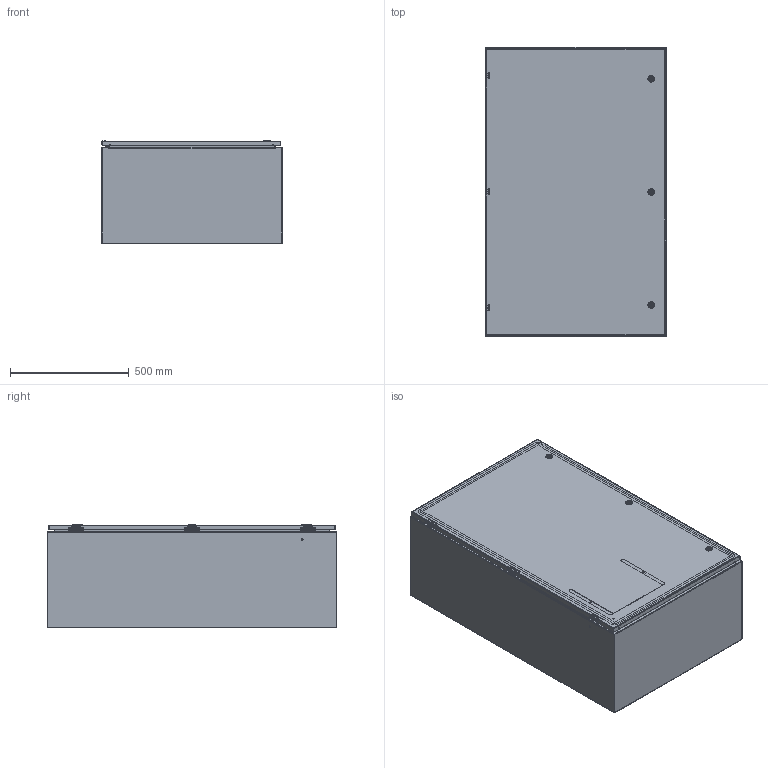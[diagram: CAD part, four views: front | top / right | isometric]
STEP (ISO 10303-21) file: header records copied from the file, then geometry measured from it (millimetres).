
FILE_DESCRIPTION((''),'2;1');
FILE_NAME('MODEL-305_ASM','2022-12-13T08:14:46',('johnh'),('SAGINAW CONTROL & ENGINEERING'),'CREO PARAMETRIC BY PTC INC, 2021284','CREO PARAMETRIC BY PTC INC, 2021284','');
FILE_SCHEMA(('AUTOMOTIVE_DESIGN { 1 0 10303 214 1 1 1 1 }'));
Length unit declared in the file: inch
Products named in the file (28): MODEL-305-BDY; MODEL-305-TP; MODEL-305-BTM; MODEL-305-DR; 100837; 100882; 111267; 100794_SHAFT; 100794_INSERT; 100794_CAM; 100794_NUT; 100794_SCREW; 100794_ASM; MODEL-305-DOOR-GASKET; 126391; 126391_ASM; 126393; 102483; 101226; 101376; 102140; MODEL-305-DOOR-ASSY_ASM; 101653; 122192; SUBPANEL; 100904; SUBPANEL-SUBASSEMBLY_ASM; MODEL-305_ASM
Assembly tree (61 placements, depth 4):
  MODEL-305_ASM
    MODEL-305-BDY
    MODEL-305-TP
    MODEL-305-BTM
    MODEL-305-DOOR-ASSY_ASM
      MODEL-305-DR
      100837  x3
      100882  x2
      111267
      100794_ASM  x3
        100794_SHAFT
        100794_INSERT
        100794_CAM
        100794_NUT
        100794_SCREW
      MODEL-305-DOOR-GASKET
      126391_ASM  x3
        126391
      126393  x3
      102483  x9
      101226  x3
      101376  x3
      102140  x3
    100837
    101653  x6
    122192
    SUBPANEL-SUBASSEMBLY_ASM
      SUBPANEL
      100904  x6
Bounding box: 762 x 1219.2 x 437.53 mm (x, y, z)
Volume: 10490478.4 mm3; surface area: 9541303.9 mm2
Topology: 67 solids, 67 shells, 4077 faces, 10342 edges, 6501 vertices
Faces by surface type: plane 1848, cylinder 1172, bspline 532, torus 295, cone 150, sphere 80
Entity records: 88100 total; most frequent: CARTESIAN_POINT 25468, ORIENTED_EDGE 9090, DIRECTION 8546, PRESENTATION_STYLE_ASSIGNMENT 4742, EDGE_CURVE 4545, STYLED_ITEM 4467, CURVE_STYLE 4383, AXIS2_PLACEMENT_3D 3102
